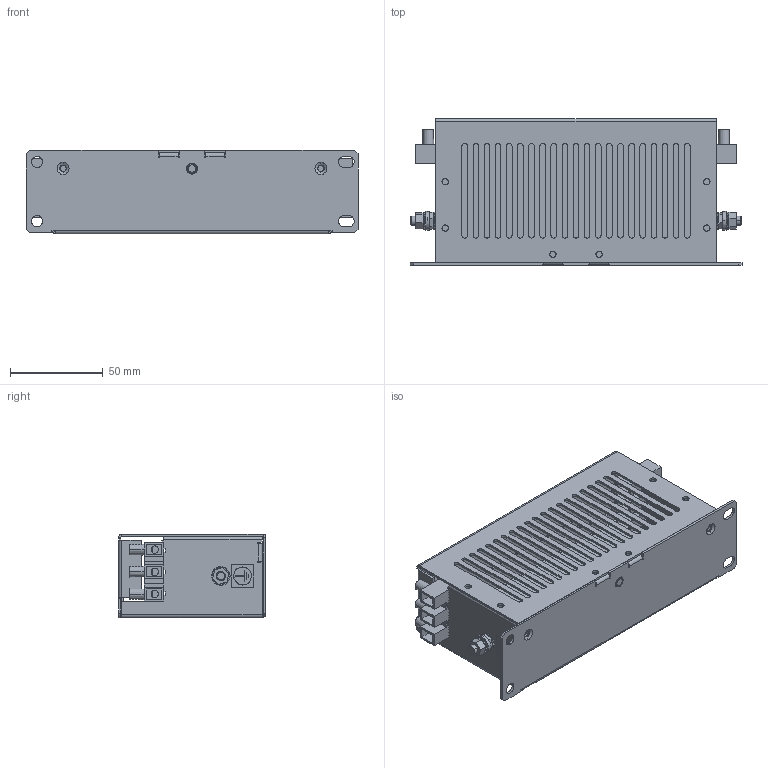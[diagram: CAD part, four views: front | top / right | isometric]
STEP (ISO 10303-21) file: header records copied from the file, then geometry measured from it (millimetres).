
FILE_DESCRIPTION((''),'2;1');
FILE_NAME('PRT0001','2022-03-09T12:45:46',('GGaikwa'),('Rockwell Automation'),'CREO PARAMETRIC BY PTC INC, 2020281','CREO PARAMETRIC BY PTC INC, 2020281','');
FILE_SCHEMA(('AUTOMOTIVE_DESIGN { 1 0 10303 214 1 1 1 1 }'));
Length unit declared in the file: millimetre
Products named in the file (1): PRT0001
Bounding box: 179 x 79 x 45 mm (x, y, z)
Volume: 29358.5 mm3; surface area: 105256.9 mm2
Topology: 13 solids, 18 shells, 1338 faces, 3799 edges, 2501 vertices
Faces by surface type: plane 939, cylinder 320, cone 65, torus 14
Entity records: 53828 total; most frequent: CARTESIAN_POINT 8411, ORIENTED_EDGE 7546, DIRECTION 7115, EDGE_CURVE 3797, VECTOR 2743, LINE 2743, VERTEX_POINT 2501, AXIS2_PLACEMENT_3D 2186
